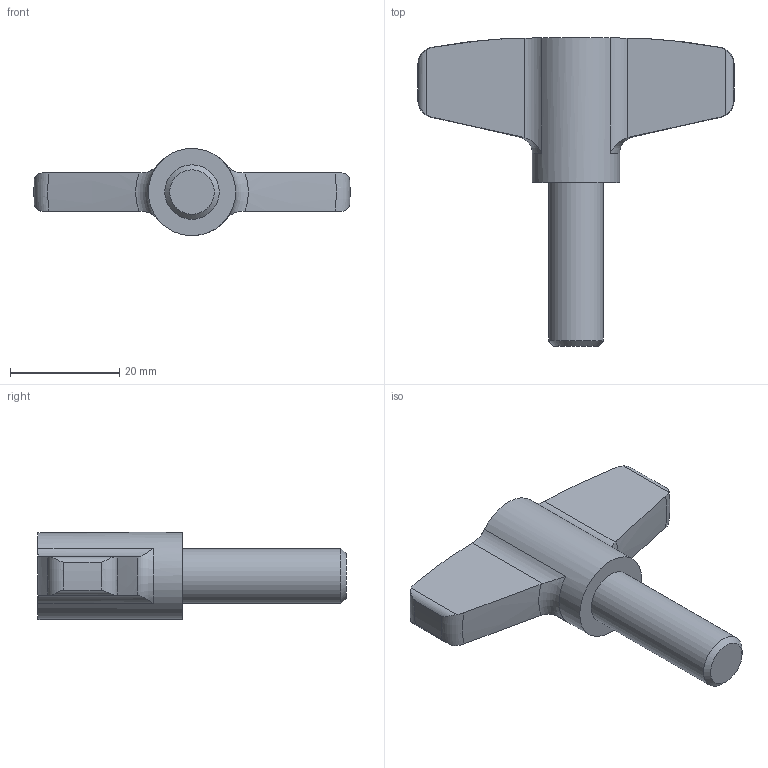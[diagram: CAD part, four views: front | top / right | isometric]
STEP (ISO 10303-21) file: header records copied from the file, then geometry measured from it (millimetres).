
FILE_DESCRIPTION( ( 'STEP AP203' ), '1' );
FILE_NAME( 'C:/Temp/Ganter_Step_05_03_2020/data/2_2/gn_835/Stainless Steel-Wing screw GN 835-58-M10-30-MT.stp', '2020-03-05T12:19:33', ( 'License CC BY-ND 4.0' ), ( 'CADENAS' ), ' ', 'PARTsolutions', ' ' );
FILE_SCHEMA( ( 'CONFIG_CONTROL_DESIGN' ) );
Length unit declared in the file: millimetre
Products named in the file (1): _Stainless Steel-Wing screw GN 835-58-M10-30-MT
Bounding box: 57.97 x 56.5 x 15.98 mm (x, y, z)
Volume: 12330.5 mm3; surface area: 4426.9 mm2
Topology: 1 solids, 1 shells, 30 faces, 76 edges, 49 vertices
Faces by surface type: cylinder 12, plane 7, torus 6, cone 3, bspline 2
Full cylindrical faces by diameter (mm): 10 x1, 16 x1
Entity records: 1166 total; most frequent: CARTESIAN_POINT 477, ORIENTED_EDGE 144, DIRECTION 114, EDGE_CURVE 72, AXIS2_PLACEMENT_3D 49, VERTEX_POINT 48, B_SPLINE_CURVE_WITH_KNOTS 36, EDGE_LOOP 34
